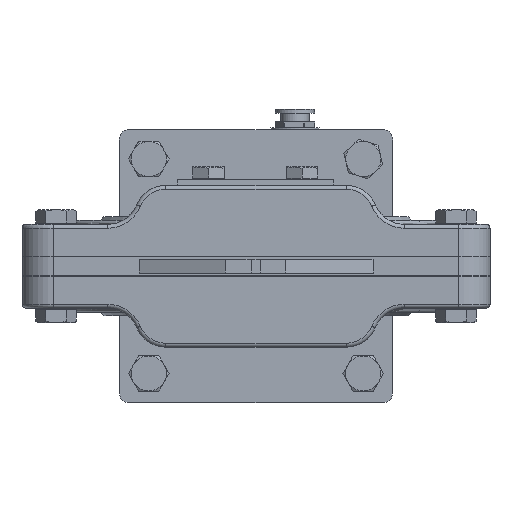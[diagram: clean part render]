
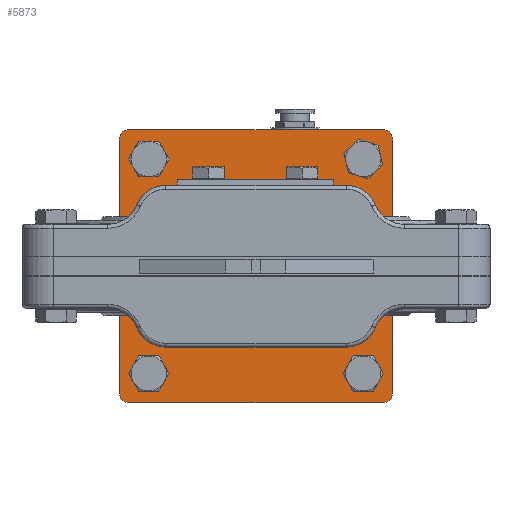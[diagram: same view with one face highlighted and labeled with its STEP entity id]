
A CAD part, front view. The second image highlights one B-rep face of the part: STEP entity #5873.
In plain terms, the highlighted planar face has unit normal (0, -1, 0).
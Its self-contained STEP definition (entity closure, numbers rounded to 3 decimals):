
#5873=ADVANCED_FACE('',(#21430,#21432,#21434,#21436,#21438,#21440,#21442,#21444,
#21446,#21448),#21450,.F.);
#21430=FACE_BOUND('',#21431,.T.);
#21431=EDGE_LOOP('',(#34249,#34250,#34251,#34252,#34253,#34254,#34255,#34256));
#21432=FACE_BOUND('',#21433,.T.);
#21433=EDGE_LOOP('',(#34257));
#21434=FACE_BOUND('',#21435,.T.);
#21435=EDGE_LOOP('',(#34258));
#21436=FACE_BOUND('',#21437,.T.);
#21437=EDGE_LOOP('',(#34259));
#21438=FACE_BOUND('',#21439,.T.);
#21439=EDGE_LOOP('',(#34260));
#21440=FACE_BOUND('',#21441,.T.);
#21441=EDGE_LOOP('',(#34261));
#21442=FACE_BOUND('',#21443,.T.);
#21443=EDGE_LOOP('',(#34262));
#21444=FACE_BOUND('',#21445,.T.);
#21445=EDGE_LOOP('',(#34263));
#21446=FACE_BOUND('',#21447,.T.);
#21447=EDGE_LOOP('',(#34264));
#21448=FACE_BOUND('',#21449,.T.);
#21449=EDGE_LOOP('',(#34265));
#21450=PLANE('',#21451);
#21451=AXIS2_PLACEMENT_3D('',#21452,#21453,#21454);
#21452=CARTESIAN_POINT('',(0.,408.,0.));
#21453=DIRECTION('',(0.,1.,0.));
#21454=DIRECTION('',(0.,0.,1.));
#34249=ORIENTED_EDGE('',*,*,#40981,.F.);
#34250=ORIENTED_EDGE('',*,*,#40982,.F.);
#34251=ORIENTED_EDGE('',*,*,#40983,.F.);
#34252=ORIENTED_EDGE('',*,*,#40984,.F.);
#34253=ORIENTED_EDGE('',*,*,#40985,.F.);
#34254=ORIENTED_EDGE('',*,*,#40986,.F.);
#34255=ORIENTED_EDGE('',*,*,#40987,.F.);
#34256=ORIENTED_EDGE('',*,*,#40988,.F.);
#34257=ORIENTED_EDGE('',*,*,#40989,.F.);
#34258=ORIENTED_EDGE('',*,*,#40990,.F.);
#34259=ORIENTED_EDGE('',*,*,#40991,.F.);
#34260=ORIENTED_EDGE('',*,*,#40518,.T.);
#34261=ORIENTED_EDGE('',*,*,#40992,.T.);
#34262=ORIENTED_EDGE('',*,*,#40517,.T.);
#34263=ORIENTED_EDGE('',*,*,#40993,.T.);
#34264=ORIENTED_EDGE('',*,*,#40994,.F.);
#34265=ORIENTED_EDGE('',*,*,#40995,.F.);
#40517=EDGE_CURVE('',#45408,#45408,#45409,.T.);
#40518=EDGE_CURVE('',#45410,#45410,#45411,.T.);
#40981=EDGE_CURVE('',#46195,#46196,#46197,.T.);
#40982=EDGE_CURVE('',#46198,#46195,#46199,.T.);
#40983=EDGE_CURVE('',#46200,#46198,#46201,.T.);
#40984=EDGE_CURVE('',#46202,#46200,#46203,.T.);
#40985=EDGE_CURVE('',#46204,#46202,#46205,.T.);
#40986=EDGE_CURVE('',#46206,#46204,#46207,.T.);
#40987=EDGE_CURVE('',#46208,#46206,#46209,.T.);
#40988=EDGE_CURVE('',#46196,#46208,#46210,.T.);
#40989=EDGE_CURVE('',#46211,#46211,#46212,.F.);
#40990=EDGE_CURVE('',#46213,#46213,#46214,.F.);
#40991=EDGE_CURVE('',#46215,#46215,#46216,.T.);
#40992=EDGE_CURVE('',#46217,#46217,#46218,.T.);
#40993=EDGE_CURVE('',#46219,#46219,#46220,.T.);
#40994=EDGE_CURVE('',#46221,#46221,#46222,.F.);
#40995=EDGE_CURVE('',#46223,#46223,#46224,.F.);
#45408=VERTEX_POINT('',#55458);
#45409=CIRCLE('',#55459,8.);
#45410=VERTEX_POINT('',#55463);
#45411=CIRCLE('',#55464,8.);
#46195=VERTEX_POINT('',#59918);
#46196=VERTEX_POINT('',#59919);
#46197=CIRCLE('',#59920,4.75);
#46198=VERTEX_POINT('',#59924);
#46199=LINE('',#59925,#59926);
#46200=VERTEX_POINT('',#59928);
#46201=CIRCLE('',#59929,4.75);
#46202=VERTEX_POINT('',#59933);
#46203=LINE('',#59934,#59935);
#46204=VERTEX_POINT('',#59937);
#46205=CIRCLE('',#59938,4.75);
#46206=VERTEX_POINT('',#59942);
#46207=LINE('',#59943,#59944);
#46208=VERTEX_POINT('',#59946);
#46209=CIRCLE('',#59947,4.75);
#46210=LINE('',#59951,#59952);
#46211=VERTEX_POINT('',#59954);
#46212=CIRCLE('',#59955,9.);
#46213=VERTEX_POINT('',#59959);
#46214=CIRCLE('',#59960,9.);
#46215=VERTEX_POINT('',#59964);
#46216=CIRCLE('',#59965,30.);
#46217=VERTEX_POINT('',#59969);
#46218=CIRCLE('',#59970,8.);
#46219=VERTEX_POINT('',#59974);
#46220=CIRCLE('',#59975,8.);
#46221=VERTEX_POINT('',#59979);
#46222=CIRCLE('',#59980,9.);
#46223=VERTEX_POINT('',#59984);
#46224=CIRCLE('',#59985,9.);
#55458=CARTESIAN_POINT('',(-53.,408.,30.));
#55459=AXIS2_PLACEMENT_3D('',#55460,#55461,#55462);
#55460=CARTESIAN_POINT('',(-45.,408.,30.));
#55461=DIRECTION('',(0.,1.,0.));
#55462=DIRECTION('',(-1.,0.,0.));
#55463=CARTESIAN_POINT('',(37.,408.,30.));
#55464=AXIS2_PLACEMENT_3D('',#55465,#55466,#55467);
#55465=CARTESIAN_POINT('',(45.,408.,30.));
#55466=DIRECTION('',(0.,1.,0.));
#55467=DIRECTION('',(-1.,0.,0.));
#59918=CARTESIAN_POINT('',(-65.25,408.,-70.));
#59919=CARTESIAN_POINT('',(-70.,408.,-65.25));
#59920=AXIS2_PLACEMENT_3D('',#59921,#59922,#59923);
#59921=CARTESIAN_POINT('',(-65.25,408.,-65.25));
#59922=DIRECTION('',(0.,1.,0.));
#59923=DIRECTION('',(0.,0.,-1.));
#59924=CARTESIAN_POINT('',(65.25,408.,-70.));
#59925=CARTESIAN_POINT('',(65.25,408.,-70.));
#59926=VECTOR('',#59927,1.);
#59927=DIRECTION('',(-1.,0.,0.));
#59928=CARTESIAN_POINT('',(70.,408.,-65.25));
#59929=AXIS2_PLACEMENT_3D('',#59930,#59931,#59932);
#59930=CARTESIAN_POINT('',(65.25,408.,-65.25));
#59931=DIRECTION('',(0.,1.,0.));
#59932=DIRECTION('',(1.,0.,0.));
#59933=CARTESIAN_POINT('',(70.,408.,65.25));
#59934=CARTESIAN_POINT('',(70.,408.,65.25));
#59935=VECTOR('',#59936,1.);
#59936=DIRECTION('',(0.,0.,-1.));
#59937=CARTESIAN_POINT('',(65.25,408.,70.));
#59938=AXIS2_PLACEMENT_3D('',#59939,#59940,#59941);
#59939=CARTESIAN_POINT('',(65.25,408.,65.25));
#59940=DIRECTION('',(0.,1.,0.));
#59941=DIRECTION('',(0.,0.,1.));
#59942=CARTESIAN_POINT('',(-65.25,408.,70.));
#59943=CARTESIAN_POINT('',(-65.25,408.,70.));
#59944=VECTOR('',#59945,1.);
#59945=DIRECTION('',(1.,0.,0.));
#59946=CARTESIAN_POINT('',(-70.,408.,65.25));
#59947=AXIS2_PLACEMENT_3D('',#59948,#59949,#59950);
#59948=CARTESIAN_POINT('',(-65.25,408.,65.25));
#59949=DIRECTION('',(0.,1.,0.));
#59950=DIRECTION('',(-1.,0.,0.));
#59951=CARTESIAN_POINT('',(-70.,408.,-65.25));
#59952=VECTOR('',#59953,1.);
#59953=DIRECTION('',(0.,0.,1.));
#59954=CARTESIAN_POINT('',(48.443,408.,48.835));
#59955=AXIS2_PLACEMENT_3D('',#59956,#59957,#59958);
#59956=CARTESIAN_POINT('',(55.,408.,55.));
#59957=DIRECTION('',(0.,1.,0.));
#59958=DIRECTION('',(-0.729,0.,-0.685));
#59959=CARTESIAN_POINT('',(64.,408.,-55.));
#59960=AXIS2_PLACEMENT_3D('',#59961,#59962,#59963);
#59961=CARTESIAN_POINT('',(55.,408.,-55.));
#59962=DIRECTION('',(0.,1.,0.));
#59963=DIRECTION('',(1.,0.,0.));
#59964=CARTESIAN_POINT('',(0.,408.,-30.));
#59965=AXIS2_PLACEMENT_3D('',#59966,#59967,#59968);
#59966=CARTESIAN_POINT('',(0.,408.,0.));
#59967=DIRECTION('',(0.,-1.,0.));
#59968=DIRECTION('',(0.,0.,-1.));
#59969=CARTESIAN_POINT('',(-53.,408.,-30.));
#59970=AXIS2_PLACEMENT_3D('',#59971,#59972,#59973);
#59971=CARTESIAN_POINT('',(-45.,408.,-30.));
#59972=DIRECTION('',(0.,1.,0.));
#59973=DIRECTION('',(-1.,0.,0.));
#59974=CARTESIAN_POINT('',(37.,408.,-30.));
#59975=AXIS2_PLACEMENT_3D('',#59976,#59977,#59978);
#59976=CARTESIAN_POINT('',(45.,408.,-30.));
#59977=DIRECTION('',(0.,1.,0.));
#59978=DIRECTION('',(-1.,0.,0.));
#59979=CARTESIAN_POINT('',(-46.,408.,-55.));
#59980=AXIS2_PLACEMENT_3D('',#59981,#59982,#59983);
#59981=CARTESIAN_POINT('',(-55.,408.,-55.));
#59982=DIRECTION('',(0.,1.,0.));
#59983=DIRECTION('',(1.,0.,0.));
#59984=CARTESIAN_POINT('',(-46.,408.,55.));
#59985=AXIS2_PLACEMENT_3D('',#59986,#59987,#59988);
#59986=CARTESIAN_POINT('',(-55.,408.,55.));
#59987=DIRECTION('',(0.,1.,0.));
#59988=DIRECTION('',(1.,0.,0.));
